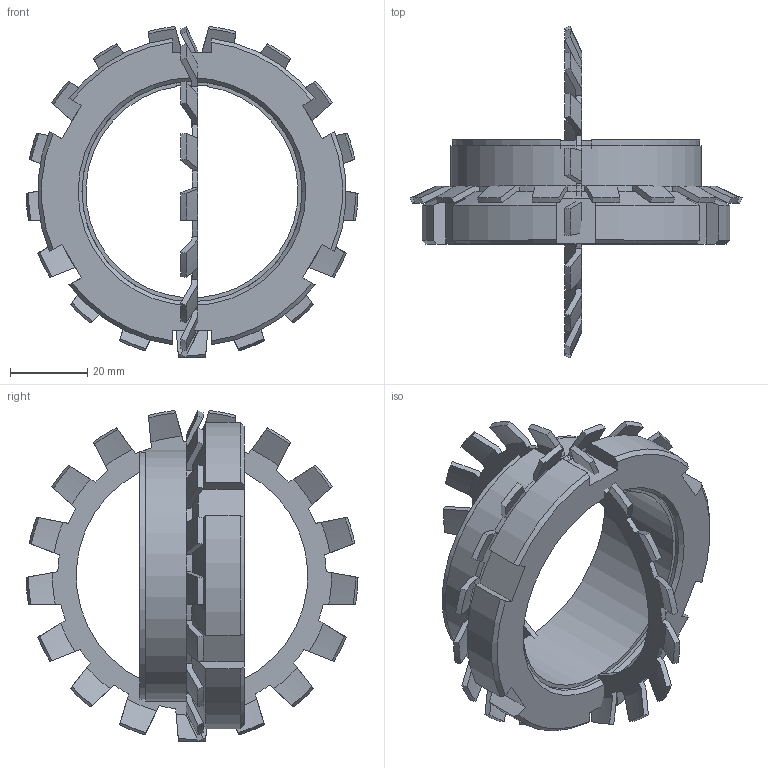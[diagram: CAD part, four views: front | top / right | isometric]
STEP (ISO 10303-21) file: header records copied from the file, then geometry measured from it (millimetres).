
FILE_DESCRIPTION( ( 'Unknown' ), '1' );
FILE_NAME( 'C:/Dokumente und Einstellungen/Sven/Desktop/homepage/cad - homepage/KBS51/KBS 51 - 55 x 65.stp', 'Unknown', ( 'Unknown' ), ( 'Unknown' ), 'XStep 1.0', 'Unknown', ' ' );
FILE_SCHEMA( ( 'automotive_design' ) );
Length unit declared in the file: millimetre
Products named in the file (3): Assem1; KBS 51 - 55 x 65; 08570121_locking_plate_din_5406_mb_12_2_14a
Bounding box: 85.99 x 85.99 x 85.75 mm (x, y, z)
Volume: 89329.6 mm3; surface area: 41431.9 mm2
Topology: 4 solids, 4 shells, 308 faces, 892 edges, 592 vertices
Faces by surface type: plane 132, cone 122, cylinder 54
Full cylindrical faces by diameter (mm): 57 x2, 65 x2
Entity records: 7598 total; most frequent: CARTESIAN_POINT 1155, ORIENTED_EDGE 880, DIRECTION 822, EDGE_CURVE 440, STYLED_ITEM 426, PRESENTATION_STYLE_ASSIGNMENT 426, COLOUR_RGB 426, AXIS2_PLACEMENT_3D 325
